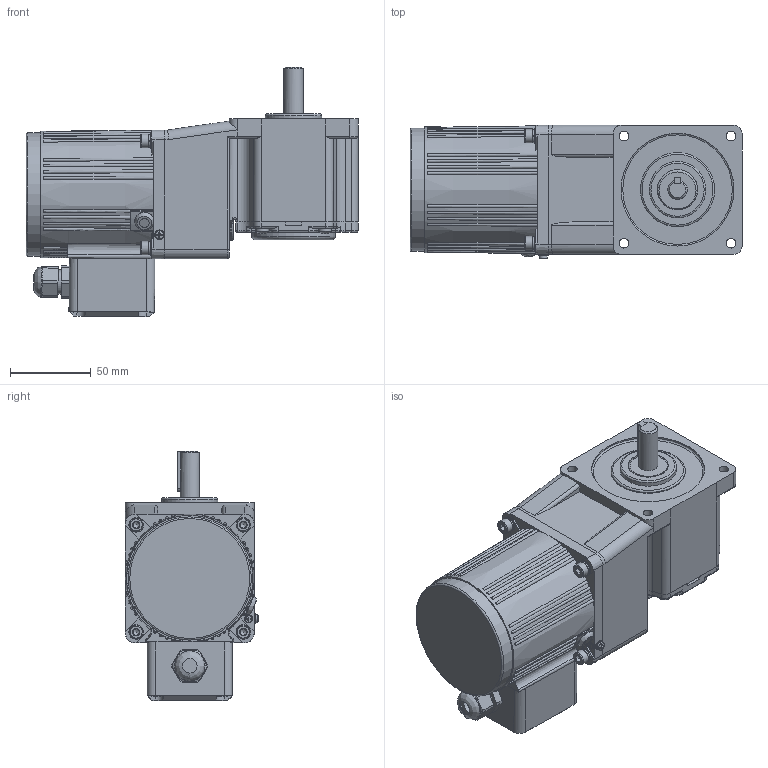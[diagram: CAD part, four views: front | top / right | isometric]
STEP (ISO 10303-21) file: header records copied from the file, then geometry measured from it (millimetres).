
FILE_DESCRIPTION(/* description */ (''),/* implementation_level */ '2;1');
FILE_NAME(/* name */ '80+中实直角-普通-25-40W 新版常规接线盒.stp',/* time_stamp */ '2025-03-30T13:03:11+08:00',/* author */ (''),/* organization */ (''),/* preprocessor_version */ 'ST-DEVELOPER v18.102',/* originating_system */ 'SIEMENS PLM Software NX 2027',/* authorisation */ '');
FILE_SCHEMA (('AP203_CONFIGURATION_CONTROLLED_3D_DESIGN_OF_MECHANICAL_PARTS_AND_ASSEMBLIES_MIM_LF { 1 0 10303 403 2 1 2}'));
Length unit declared in the file: millimetre
Products named in the file (1): 80+中空直角-普通-25-40W 新版_
stp_M0662BD48208x5xm
Bounding box: 206 x 82.78 x 154.9 mm (x, y, z)
Volume: 1133676.4 mm3; surface area: 139943.9 mm2
Topology: 17 solids, 17 shells, 975 faces, 2354 edges, 1465 vertices
Faces by surface type: plane 429, cylinder 258, cone 97, torus 92, bspline 87, sphere 12
Full cylindrical faces by diameter (mm): 2.6 x1, 2.7 x1, 3.2 x1, 4.2 x4, 4.4 x1, 4.5 x4, 4.826 x4, 5 x9, 5.1 x1, 5.3 x4, 6 x10, 8 x4, 8.2 x1, 8.5 x4, 9 x5, 10.5 x1, 12 x2, 15 x2, 16 x1, 18 x1, 19 x2, 25 x1, 26 x1, 35 x1, 46 x1, 52 x1, 56 x1, 67 x1, 70 x1, 75 x1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
Entity records: 35078 total; most frequent: CARTESIAN_POINT 14153, ORIENTED_EDGE 4258, DIRECTION 3966, EDGE_CURVE 2129, AXIS2_PLACEMENT_3D 1580, VERTEX_POINT 1386, EDGE_LOOP 1200, ADVANCED_FACE 973
